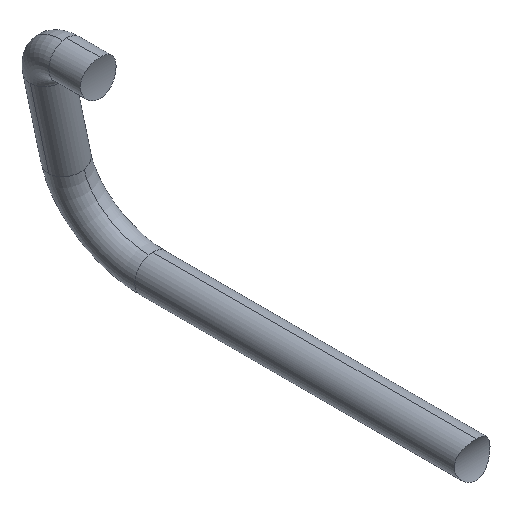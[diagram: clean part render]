
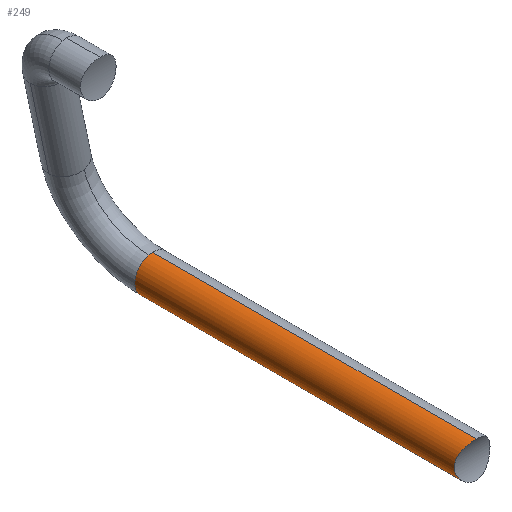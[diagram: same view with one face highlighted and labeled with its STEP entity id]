
A CAD part, isometric view. The second image highlights one B-rep face of the part: STEP entity #249.
In plain terms, the highlighted cylindrical face has radius 7.5 mm (diameter 15 mm), a partial arc.
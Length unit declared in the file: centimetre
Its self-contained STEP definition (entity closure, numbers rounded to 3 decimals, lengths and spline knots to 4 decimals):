
#10 = CIRCLE ( 'NONE', #147, 0.75 ) ;
#12 = CARTESIAN_POINT ( 'NONE',  ( -0.3332, -0.5032, 0.6724 ) ) ;
#13 = CARTESIAN_POINT ( 'NONE',  ( -0.7304, -0.3759, -0.1721 ) ) ;
#30 = CIRCLE ( 'NONE', #388, 0.75 ) ;
#31 = DIRECTION ( 'NONE',  ( 0., 0., 1. ) ) ;
#52 = VERTEX_POINT ( 'NONE', #312 ) ;
#55 = CARTESIAN_POINT ( 'NONE',  ( -0.7488, -0.368, 0.0495 ) ) ;
#58 = LINE ( 'NONE', #375, #346 ) ;
#59 = CARTESIAN_POINT ( 'NONE',  ( -0.3112, -0.5077, 0.6828 ) ) ;
#63 = CARTESIAN_POINT ( 'NONE',  ( -0.5945, -0.429, -0.4579 ) ) ;
#67 = CARTESIAN_POINT ( 'NONE',  ( 0., -0.5383, 0.75 ) ) ;
#87 = VERTEX_POINT ( 'NONE', #446 ) ;
#96 = CARTESIAN_POINT ( 'NONE',  ( -0.1959, -0.5262, -0.7244 ) ) ;
#100 = LINE ( 'NONE', #417, #131 ) ;
#103 = CARTESIAN_POINT ( 'NONE',  ( -0.2437, -0.52, 0.711 ) ) ;
#104 = EDGE_CURVE ( 'NONE', #52, #160, #550, .T. ) ;
#105 = CARTESIAN_POINT ( 'NONE',  ( -0.3773, -0.4938, -0.65 ) ) ;
#131 = VECTOR ( 'NONE', #224, 100. ) ;
#147 = AXIS2_PLACEMENT_3D ( 'NONE', #289, #353, #342 ) ;
#150 = CARTESIAN_POINT ( 'NONE',  ( -0.3974, -0.4886, 0.6365 ) ) ;
#153 = CARTESIAN_POINT ( 'NONE',  ( -0.6731, -0.3995, -0.3344 ) ) ;
#155 = CARTESIAN_POINT ( 'NONE',  ( -0.75, -0.3675, -0.0501 ) ) ;
#156 = CARTESIAN_POINT ( 'NONE',  ( -0.172, -0.529, -0.7304 ) ) ;
#160 = VERTEX_POINT ( 'NONE', #67 ) ;
#169 = EDGE_LOOP ( 'NONE', ( #228, #292, #331, #574, #273 ) ) ;
#202 = CARTESIAN_POINT ( 'NONE',  ( -0.711, -0.3841, 0.2437 ) ) ;
#204 = CARTESIAN_POINT ( 'NONE',  ( -0.7243, -0.3785, -0.1964 ) ) ;
#206 = CARTESIAN_POINT ( 'NONE',  ( -0.2433, -0.5196, -0.7099 ) ) ;
#208 = CARTESIAN_POINT ( 'NONE',  ( -0.75, -0.3675, 0.0244 ) ) ;
#211 = CARTESIAN_POINT ( 'NONE',  ( -0.3345, -0.5035, -0.673 ) ) ;
#220 = DIRECTION ( 'NONE',  ( 0., 0., -1. ) ) ;
#224 = DIRECTION ( 'NONE',  ( 0., -1., 0. ) ) ;
#228 = ORIENTED_EDGE ( 'NONE', *, *, #481, .F. ) ;
#249 = ADVANCED_FACE ( 'NONE', ( #381 ), #391, .T. ) ;
#251 = CARTESIAN_POINT ( 'NONE',  ( -0.4581, -0.4729, 0.5958 ) ) ;
#252 = CARTESIAN_POINT ( 'NONE',  ( -0.6728, -0.3996, 0.3351 ) ) ;
#273 = ORIENTED_EDGE ( 'NONE', *, *, #104, .T. ) ;
#289 = CARTESIAN_POINT ( 'NONE',  ( 0., 13., 0. ) ) ;
#290 = CARTESIAN_POINT ( 'NONE',  ( -0.5132, -0.4562, -0.5474 ) ) ;
#292 = ORIENTED_EDGE ( 'NONE', *, *, #623, .F. ) ;
#293 = CARTESIAN_POINT ( 'NONE',  ( -0.6091, -0.4237, -0.4383 ) ) ;
#295 = CARTESIAN_POINT ( 'NONE',  ( -0.564, -0.4398, 0.4968 ) ) ;
#296 = CARTESIAN_POINT ( 'NONE',  ( -0.0502, -0.5383, -0.75 ) ) ;
#299 = CARTESIAN_POINT ( 'NONE',  ( -0.7438, -0.3702, 0.0993 ) ) ;
#312 = CARTESIAN_POINT ( 'NONE',  ( 0., -0.5383, -0.75 ) ) ;
#318 = CARTESIAN_POINT ( 'NONE',  ( 0., 13., 0. ) ) ;
#324 = CARTESIAN_POINT ( 'NONE',  ( -0.1551, 13., 0.7338 ) ) ;
#331 = ORIENTED_EDGE ( 'NONE', *, *, #385, .F. ) ;
#342 = DIRECTION ( 'NONE',  ( 0., 0., 1. ) ) ;
#344 = CARTESIAN_POINT ( 'NONE',  ( -0.7401, -0.3718, 0.1238 ) ) ;
#346 = VECTOR ( 'NONE', #434, 100. ) ;
#347 = CARTESIAN_POINT ( 'NONE',  ( 0., -0.5383, 0.75 ) ) ;
#349 = CARTESIAN_POINT ( 'NONE',  ( -0.5954, -0.4288, 0.4587 ) ) ;
#353 = DIRECTION ( 'NONE',  ( 0., 1., 0. ) ) ;
#370 = CARTESIAN_POINT ( 'NONE',  ( 0., 13., 0.75 ) ) ;
#375 = CARTESIAN_POINT ( 'NONE',  ( 0., 13., -0.75 ) ) ;
#381 = FACE_OUTER_BOUND ( 'NONE', #169, .T. ) ;
#385 = EDGE_CURVE ( 'NONE', #87, #562, #30, .T. ) ;
#388 = AXIS2_PLACEMENT_3D ( 'NONE', #318, #419, #31 ) ;
#391 = CYLINDRICAL_SURFACE ( 'NONE', #403, 0.75 ) ;
#403 = AXIS2_PLACEMENT_3D ( 'NONE', #573, #517, #220 ) ;
#404 = CARTESIAN_POINT ( 'NONE',  ( -0.4381, -0.4781, -0.6092 ) ) ;
#405 = CARTESIAN_POINT ( 'NONE',  ( -0.7014, -0.388, -0.2668 ) ) ;
#406 = CARTESIAN_POINT ( 'NONE',  ( -0.1968, -0.5266, 0.7254 ) ) ;
#417 = CARTESIAN_POINT ( 'NONE',  ( 0., 13., 0.75 ) ) ;
#419 = DIRECTION ( 'NONE',  ( 0., 1., 0. ) ) ;
#422 = VERTEX_POINT ( 'NONE', #370 ) ;
#434 = DIRECTION ( 'NONE',  ( 0., -1., 0. ) ) ;
#446 = CARTESIAN_POINT ( 'NONE',  ( 0., 13., -0.75 ) ) ;
#451 = CARTESIAN_POINT ( 'NONE',  ( -0.2667, -0.5158, -0.7014 ) ) ;
#452 = CARTESIAN_POINT ( 'NONE',  ( -0.5474, -0.4452, -0.5133 ) ) ;
#456 = CARTESIAN_POINT ( 'NONE',  ( -0.7097, -0.3846, -0.2437 ) ) ;
#461 = CARTESIAN_POINT ( 'NONE',  ( -0.6501, -0.4086, -0.3773 ) ) ;
#481 = EDGE_CURVE ( 'NONE', #422, #160, #100, .T. ) ;
#495 = CARTESIAN_POINT ( 'NONE',  ( -0.0988, -0.5359, 0.7451 ) ) ;
#497 = EDGE_CURVE ( 'NONE', #87, #52, #58, .T. ) ;
#498 = CARTESIAN_POINT ( 'NONE',  ( -0.0995, -0.5358, -0.745 ) ) ;
#501 = CARTESIAN_POINT ( 'NONE',  ( -0.5636, -0.4397, -0.4954 ) ) ;
#502 = CARTESIAN_POINT ( 'NONE',  ( -0.3762, -0.4937, 0.6493 ) ) ;
#517 = DIRECTION ( 'NONE',  ( 0., -1., 0. ) ) ;
#542 = CARTESIAN_POINT ( 'NONE',  ( -0.4953, -0.4617, -0.5637 ) ) ;
#547 = CARTESIAN_POINT ( 'NONE',  ( -0.7451, -0.3697, -0.0992 ) ) ;
#549 = CARTESIAN_POINT ( 'NONE',  ( -0.7255, -0.378, 0.1964 ) ) ;
#550 = B_SPLINE_CURVE_WITH_KNOTS ( 'NONE', 3,
 ( #597, #296, #498, #156, #96, #206, #451, #211, #105, #404, #600, #542, #290, #452, #501, #63, #293, #461, #153, #405, #456, #204, #13, #547, #155, #208, #55, #299, #344, #549, #202, #252, #603, #349, #295, #599, #251, #150, #502, #12, #59, #103, #406, #495, #552, #347 ),
 .UNSPECIFIED., .F., .F.,
 ( 4, 2, 2, 2, 2, 2, 2, 2, 2, 2, 2, 2, 2, 2, 2, 2, 2, 2, 2, 2, 2, 2, 4 ),
 ( 0., 0.0015, 0.0022, 0.003, 0.0045, 0.0052, 0.0059, 0.0067, 0.0074, 0.0089, 0.0096, 0.0104, 0.0119, 0.0126, 0.0134, 0.0148, 0.0163, 0.0178, 0.0193, 0.02, 0.0208, 0.0223, 0.0237 ),
 .UNSPECIFIED. ) ;
#552 = CARTESIAN_POINT ( 'NONE',  ( -0.0495, -0.5383, 0.75 ) ) ;
#562 = VERTEX_POINT ( 'NONE', #324 ) ;
#573 = CARTESIAN_POINT ( 'NONE',  ( 0., 13., 0. ) ) ;
#574 = ORIENTED_EDGE ( 'NONE', *, *, #497, .T. ) ;
#597 = CARTESIAN_POINT ( 'NONE',  ( 0., -0.5383, -0.75 ) ) ;
#599 = CARTESIAN_POINT ( 'NONE',  ( -0.4954, -0.4619, 0.5651 ) ) ;
#600 = CARTESIAN_POINT ( 'NONE',  ( -0.4578, -0.4726, -0.5945 ) ) ;
#603 = CARTESIAN_POINT ( 'NONE',  ( -0.6496, -0.4087, 0.378 ) ) ;
#623 = EDGE_CURVE ( 'NONE', #562, #422, #10, .T. ) ;
